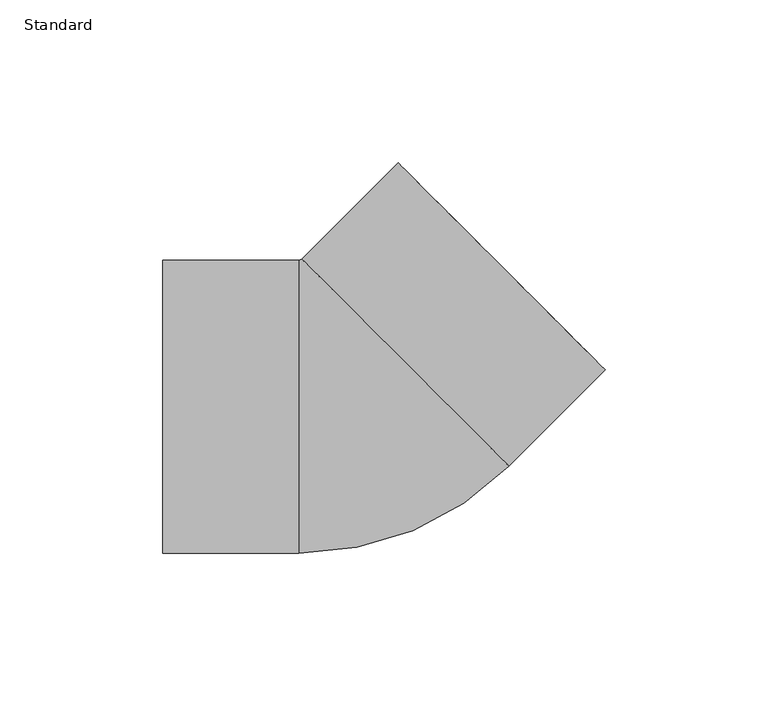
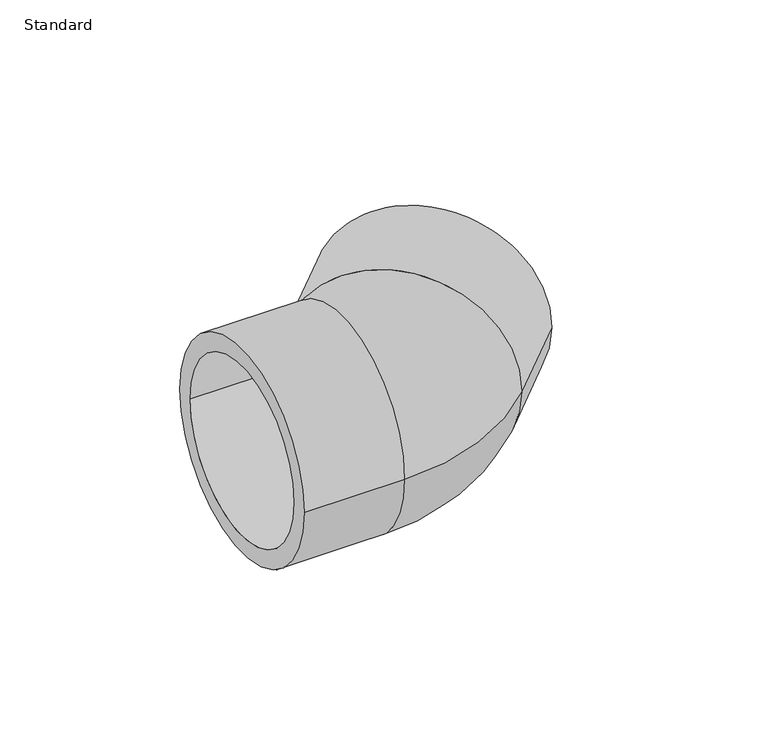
"""IFC4 building model written with IfcOpenShell, lengths in millimetres: pipe fitting geometry, Durapipe_PipeFitting_PVC_Elbow45deg : Standard."""

from ifc_helpers import new_model, si_unit, point, frame, origin, place, context, project, spatial, polyline, circle_curve, ellipse_curve, trimmed, source, transform, mapped, element, save
from ifc_brep_helpers import plane_surface, cylinder_surface, revolved_surface, advanced_brep


def standard_c2283256(model_context):
    return source(origin(), model_context, "Body", "AdvancedBrep", [
        advanced_brep(
        [(-61.0, -45.0, 0.0), (-61.0, 45.0, 0.0), (-61.0, -37.5, 0.0), (-61.0, 37.5, 0.0), (-19.1396103, -45.0, 0.0), (-19.1396103, 45.0, 0.0), (45.3535534, -18.2860569, 0.0), (-18.2860569, 45.3535534, 0.0), (74.9533188, 11.3137085, 0.0), (11.3137085, 74.9533188, 0.0), (16.6170094, 69.6500179, 0.0), (69.6500179, 16.6170094, 0.0), (-17.0, 37.5, 0.0), (-17.0, -37.5, 0.0), (-17.0, 0.0, 0.0), (-14.495689, 38.5373196, 0.0), (12.0208153, 12.0208153, 0.0), (38.5373196, -14.495689, 0.0)],
        [
            (0, 1, circle_curve(frame((-61.0, 0.0, 0.0), z_axis=(-1.0, 0.0, 0.0), x_axis=(0.0, 1.0, 0.0)), 45.0)),
            (1, 0, circle_curve(frame((-61.0, 0.0, 0.0), z_axis=(-1.0, 0.0, 0.0), x_axis=(0.0, 1.0, 0.0)), 45.0)),
            (2, 3, circle_curve(frame((-61.0, 0.0, 0.0), z_axis=(1.0, 0.0, 0.0), x_axis=(0.0, -1.0, 0.0)), 37.5)),
            (3, 2, circle_curve(frame((-61.0, 0.0, 0.0), z_axis=(1.0, 0.0, 0.0), x_axis=(0.0, -1.0, 0.0)), 37.5)),
            (0, 4),
            (4, 5, circle_curve(frame((-19.1396103, 0.0, 0.0), z_axis=(-1.0, 0.0, 0.0), x_axis=(0.0, 1.0, 0.0)), 45.0)),
            (5, 1),
            (5, 4, circle_curve(frame((-19.1396103, 0.0, 0.0), z_axis=(-1.0, 0.0, 0.0), x_axis=(0.0, 1.0, 0.0)), 45.0)),
            (4, 6, circle_curve(frame((-19.1396103, 46.2071068, 0.0), z_axis=(0.0, 0.0, 1.0), x_axis=(0.0, -1.0, 0.0)), 91.2071068)),
            (6, 7, circle_curve(frame((13.5337482, 13.5337482, 0.0), z_axis=(-0.7071067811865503, -0.7071067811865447, 0.0), x_axis=(-0.7071067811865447, 0.7071067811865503, 0.0)), 45.0)),
            (7, 5, circle_curve(frame((-19.1396103, 46.2071068, 0.0), z_axis=(0.0, 0.0, -1.0), x_axis=(0.0, -1.0, 0.0)), 1.2071068)),
            (7, 6, circle_curve(frame((13.5337482, 13.5337482, 0.0), z_axis=(-0.7071067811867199, -0.7071067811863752, 0.0), x_axis=(-0.7071067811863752, 0.7071067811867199, 0.0)), 45.0)),
            (8, 9, circle_curve(frame((43.1335137, 43.1335137, 0.0), z_axis=(0.7071067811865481, 0.707106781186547, 0.0), x_axis=(-0.707106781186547, 0.7071067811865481, 0.0)), 45.0)),
            (9, 8, circle_curve(frame((43.1335137, 43.1335137, 0.0), z_axis=(0.7071067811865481, 0.707106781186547, 0.0), x_axis=(-0.707106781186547, 0.7071067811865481, 0.0)), 45.0)),
            (10, 11, circle_curve(frame((43.1335137, 43.1335137, 0.0), z_axis=(-0.707106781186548, -0.707106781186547, 0.0), x_axis=(0.707106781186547, -0.707106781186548, 0.0)), 37.5)),
            (11, 10, circle_curve(frame((43.1335137, 43.1335137, 0.0), z_axis=(-0.707106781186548, -0.707106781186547, 0.0), x_axis=(0.707106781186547, -0.707106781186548, 0.0)), 37.5)),
            (6, 8),
            (9, 7),
            (12, 3),
            (2, 13),
            (13, 12, circle_curve(frame((-17.0, 0.0, 0.0), z_axis=(1.0, 0.0, 0.0), x_axis=(0.0, -1.0, 0.0)), 37.5)),
            (12, 13, circle_curve(frame((-17.0, 0.0, 0.0), z_axis=(1.0, 0.0, 0.0), x_axis=(0.0, -1.0, 0.0)), 37.5)),
            (13, 14),
            (14, 12),
            (15, 16),
            (16, 17),
            (17, 15, circle_curve(frame((12.0208153, 12.0208153, 0.0), z_axis=(0.707106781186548, 0.707106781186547, 0.0), x_axis=(0.707106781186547, -0.707106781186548, 0.0)), 37.5)),
            (15, 17, circle_curve(frame((12.0208153, 12.0208153, 0.0), z_axis=(0.707106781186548, 0.707106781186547, 0.0), x_axis=(0.707106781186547, -0.707106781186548, 0.0)), 37.5)),
            (17, 11),
            (10, 15),
        ],
        [
            plane_surface(frame((-61.0, 0.0, 0.0), z_axis=(-1.0, 0.0, 0.0), x_axis=(0.0, 0.0, 1.0))),
            cylinder_surface(frame((-61.0, 0.0, 0.0), z_axis=(-1.0, 0.0, 0.0), x_axis=(0.0, 1.0, 0.0)), 45.0),
            revolved_surface(trimmed(ellipse_curve(frame((-19.1396103, 0.0, 0.0), z_axis=(-1.0, 0.0, 0.0), x_axis=(0.0, 1.0, 0.0)), 45.0, 45.0), [point((-19.1396103, -45.0, 0.0))], [point((-19.1396103, 45.0, 0.0))], True, "CARTESIAN"), (-19.1396103, 46.2071068, 0.0), (0.0, 0.0, 1.0)),
            revolved_surface(trimmed(ellipse_curve(frame((-19.1396103, 0.0, 0.0), z_axis=(-1.0, 0.0, 0.0), x_axis=(0.0, 1.0, 0.0)), 45.0, 45.0), [point((-19.1396103, 45.0, 0.0))], [point((-19.1396103, -45.0, 0.0))], True, "CARTESIAN"), (-19.1396103, 46.2071068, 0.0), (0.0, 0.0, 1.0)),
            plane_surface(frame((43.1335137, 43.1335137, 0.0), z_axis=(0.7071067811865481, 0.707106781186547, 0.0), x_axis=(0.0, 0.0, 1.0))),
            cylinder_surface(frame((13.5337482, 13.5337482, 0.0), z_axis=(-0.7071067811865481, -0.707106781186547, 0.0), x_axis=(-0.707106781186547, 0.7071067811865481, 0.0)), 45.0),
            revolved_surface(polyline([(-17.0, -37.5, 0.0), (-61.0, -37.5, 0.0)]), (2000.0, 0.0, 0.0), (1.0, 0.0, 0.0)),
            plane_surface(frame((-17.0, 0.0, 0.0), z_axis=(-1.0, 0.0, 0.0), x_axis=(0.0, -1.0, 0.0))),
            plane_surface(frame((12.0208153, 12.0208153, 0.0), z_axis=(0.707106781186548, 0.707106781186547, 0.0), x_axis=(0.707106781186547, -0.707106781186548, 0.0))),
            revolved_surface(polyline([(69.65001799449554, 16.617009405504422, 0.0), (38.5373195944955, -14.495688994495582, 0.0)]), (0.0, 0.0, 0.0), (0.707106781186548, 0.707106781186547, 0.0)),
        ],
        [
            (0, [[1, 2], [3, 4]]),
            (1, [[-1, 5, 6, 7]]),
            (1, [[-2, -7, 8, -5]]),
            (2, [[-6, 9, 10, 11]]),
            (3, [[-8, -11, 12, -9]]),
            (4, [[13, 14], [15, 16]]),
            (5, [[-10, 17, -14, 18]]),
            (5, [[-12, -18, -13, -17]]),
            (6, [[19, -3, 20, 21]]),
            (6, [[-19, 22, -20, -4]]),
            (7, [[-21, 23, 24]]),
            (7, [[-22, -24, -23]]),
            (8, [[25, 26, 27]]),
            (8, [[-25, 28, -26]]),
            (9, [[-27, 29, -15, 30]]),
            (9, [[-28, -30, -16, -29]]),
        ],
    ),
    ])


if __name__ == "__main__":
    model = new_model("IFC4")
    model_context = context("Model", 3, world=origin())
    ifc_project = project(units=[si_unit("LENGTHUNIT", "METRE", prefix="MILLI")], contexts=[model_context])
    site = spatial("IfcSite", under=ifc_project)
    building = spatial("IfcBuilding", under=site)
    placement = place(None, origin())
    standard_shape = standard_c2283256(model_context)
    element("IfcPipeFitting", 1, ObjectType="Durapipe_PipeFitting_PVC_Elbow45deg : Standard", at=placement, inside=building, context=model_context, shape_type="MappedRepresentation", body=[
        mapped(standard_shape, transform((0.0, 0.0, 0.0), x_axis=(1.0, 0.0, 0.0), y_axis=(0.0, 1.0, 0.0), z_axis=(0.0, 0.0, 1.0))),
    ])
    save(model, "model.ifc")
